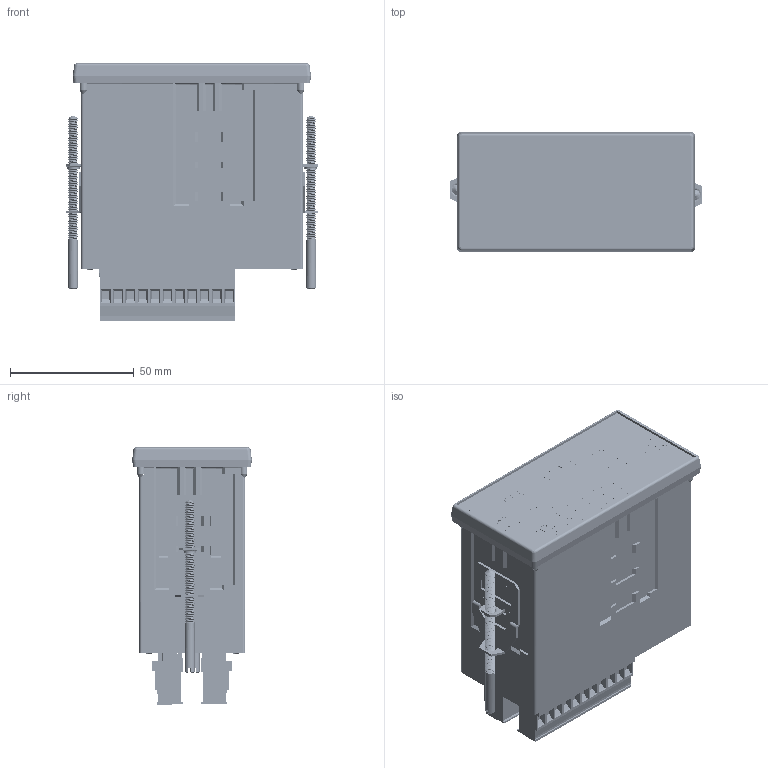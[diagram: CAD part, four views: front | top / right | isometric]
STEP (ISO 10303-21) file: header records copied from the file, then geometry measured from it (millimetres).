
FILE_DESCRIPTION (( 'STEP AP214' ), '1' );
FILE_NAME ('12300-1902-00_mit Analogausgang_3D.STEP', '2015-03-17T14:12:31', ( '' ), ( '' ), 'SwSTEP 2.0', 'SolidWorks 2015', '' );
FILE_SCHEMA (( 'AUTOMOTIVE_DESIGN' ));
Length unit declared in the file: millimetre
Products named in the file (13): 12300-1902-00_mit Analogausgang_3D; Befestigung_37003000_NGS-NK; NGS 48 NK Spindel f Schraubelement_1002177_3Dsym; NGS 48 NK Schraube_1002176_3Dsym; 31313111; 31329111; 12301-1200-00_RmitAus_3D; 12300-1200-00_TS_3D; Anzeige_3D; 37994500_NGS-94-F; pan head cross recess screw_din_ISO 7045 - M1.6 x 3 - Z --- 3N; 12301-0300-00_Rückwand_3D; 17940801_NGS-9408
Assembly tree (18 placements, depth 3):
  12300-1902-00_mit Analogausgang_3D
    17940801_NGS-9408
    12301-0300-00_Rückwand_3D
    pan head cross recess screw_din_ISO 7045 - M1.6 x 3 - Z --- 3N  x4
    37994500_NGS-94-F
    Anzeige_3D
    12300-1200-00_TS_3D
    12301-1200-00_RmitAus_3D
    31329111  x2
    31313111  x2
    Befestigung_37003000_NGS-NK  x2
      NGS 48 NK Schraube_1002176_3Dsym
      NGS 48 NK Spindel f Schraubelement_1002177_3Dsym
Bounding box: 102.2 x 48.4 x 104.11 mm (x, y, z)
Volume: 35559.8 mm3; surface area: 102637.5 mm2
Topology: 274 solids, 506 shells, 6699 faces, 16662 edges, 11078 vertices
Faces by surface type: plane 5305, bspline 796, cylinder 530, cone 54, torus 10, sphere 4
Full cylindrical faces by diameter (mm): 0.2 x15, 0.539 x2, 1.3 x22, 1.6 x4, 2.161 x1, 2.2 x1, 2.3 x4, 2.5 x4, 2.98 x2, 3 x22, 3.2 x4, 3.3 x2, 3.422 x2, 3.75 x22, 3.95 x22, 4 x140, 5 x2
Entity records: 236384 total; most frequent: CARTESIAN_POINT 90635, ORIENTED_EDGE 27062, DIRECTION 22121, EDGE_CURVE 13649, VECTOR 11257, LINE 11257, VERTEX_POINT 9143, EDGE_LOOP 6057
